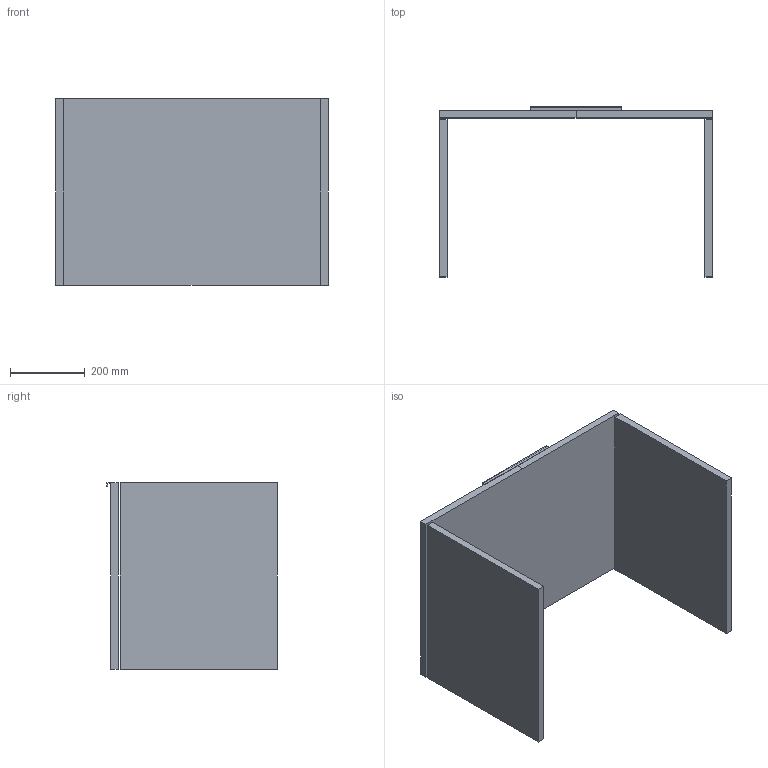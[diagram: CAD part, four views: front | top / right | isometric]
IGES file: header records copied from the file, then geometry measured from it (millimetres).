
Start section: START RECORD GO HERE.
Global section: file name: 5282.igs; native system: DASSAULT SYSTEMES CATIA V5 R19 - www.3ds.com; preprocessor: CATIA Version 5 Release 19 SP 5 ; author: gioge; organization: LAPTOP-G94B6G74; date: 20201002.165158; units: millimetre
Bounding box: 730 x 455 x 500 mm (x, y, z)
Surface area: 1702672 mm2 (no closed solid volume)
Topology: 0 solids, 0 shells, 28 faces, 120 edges, 120 vertices
Faces by surface type: plane 28
